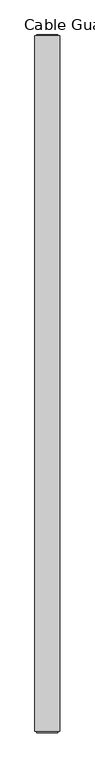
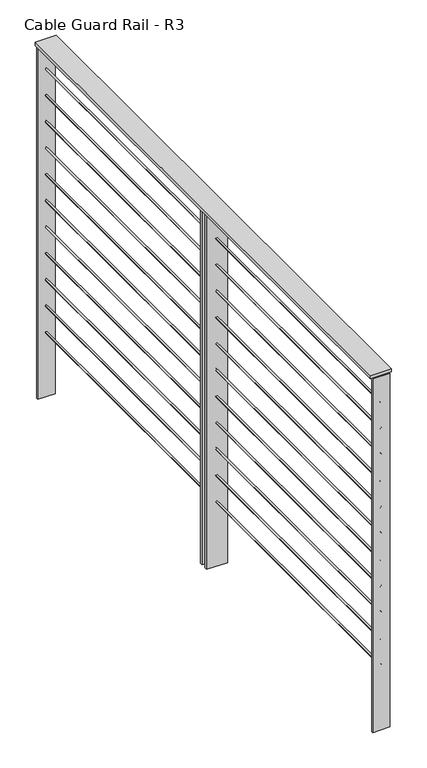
"""IFC4 building model written with IfcOpenShell, lengths in millimetres: railing geometry, Cable Guard Rail - R3."""

from ifc_helpers import new_model, si_unit, point, frame, frame_2d, origin, place, context, project, spatial, polyline, circle_curve, trimmed, segment, composite_curve, outline, extrude, source, transform, mapped, element, save


def cable_guard_rail_r3_a83c2a6b(model_context):
    return source(origin(), model_context, "Body", "SweptSolid", [
        extrude(outline(polyline([(29194.1728313, 224302.7909796), (29117.9728313, 224302.7909796), (29117.9728313, 226423.6909796), (29194.1728313, 226423.6909796), (29194.1728313, 224302.7909796)])), frame((0.0, 0.0, 295315.2166667), z_axis=(0.0, 0.0, 1.0), x_axis=(1.0, 0.0, 0.0)), (0.0, 0.0, 1.0), 12.7),
        extrude(outline(composite_curve([segment(trimmed(circle_curve(frame_2d((295213.6166667, 29156.0728313)), 3.175), [point((295213.6166667, 29159.2478313))], [point((295213.6166667, 29152.8978313))], False, "CARTESIAN"), True, "CONTINUOUS"), segment(trimmed(circle_curve(frame_2d((295213.6166667, 29156.0728313)), 3.175), [point((295213.6166667, 29152.8978313))], [point((295213.6166667, 29159.2478313))], False, "CARTESIAN"), True, "CONTINUOUS")], self_intersect=False)), frame((0.0, 224302.7909796, 0.0), z_axis=(0.0, 1.0, 0.0), x_axis=(0.0, 0.0, 1.0)), (0.0, 0.0, 1.0), 2120.9),
        extrude(outline(composite_curve([segment(trimmed(circle_curve(frame_2d((295112.0166667, 29156.0728313)), 3.175), [point((295112.0166667, 29159.2478313))], [point((295112.0166667, 29152.8978313))], False, "CARTESIAN"), True, "CONTINUOUS"), segment(trimmed(circle_curve(frame_2d((295112.0166667, 29156.0728313)), 3.175), [point((295112.0166667, 29152.8978313))], [point((295112.0166667, 29159.2478313))], False, "CARTESIAN"), True, "CONTINUOUS")], self_intersect=False)), frame((0.0, 224302.7909796, 0.0), z_axis=(0.0, 1.0, 0.0), x_axis=(0.0, 0.0, 1.0)), (0.0, 0.0, 1.0), 2120.9),
        extrude(outline(composite_curve([segment(trimmed(circle_curve(frame_2d((295010.4166667, 29156.0728313)), 3.175), [point((295010.4166667, 29159.2478313))], [point((295010.4166667, 29152.8978313))], False, "CARTESIAN"), True, "CONTINUOUS"), segment(trimmed(circle_curve(frame_2d((295010.4166667, 29156.0728313)), 3.175), [point((295010.4166667, 29152.8978313))], [point((295010.4166667, 29159.2478313))], False, "CARTESIAN"), True, "CONTINUOUS")], self_intersect=False)), frame((0.0, 224302.7909796, 0.0), z_axis=(0.0, 1.0, 0.0), x_axis=(0.0, 0.0, 1.0)), (0.0, 0.0, 1.0), 2120.9),
        extrude(outline(composite_curve([segment(trimmed(circle_curve(frame_2d((294908.8166667, 29156.0728313)), 3.175), [point((294908.8166667, 29159.2478313))], [point((294908.8166667, 29152.8978313))], False, "CARTESIAN"), True, "CONTINUOUS"), segment(trimmed(circle_curve(frame_2d((294908.8166667, 29156.0728313)), 3.175), [point((294908.8166667, 29152.8978313))], [point((294908.8166667, 29159.2478313))], False, "CARTESIAN"), True, "CONTINUOUS")], self_intersect=False)), frame((0.0, 224302.7909796, 0.0), z_axis=(0.0, 1.0, 0.0), x_axis=(0.0, 0.0, 1.0)), (0.0, 0.0, 1.0), 2120.9),
        extrude(outline(composite_curve([segment(trimmed(circle_curve(frame_2d((294807.2166667, 29156.0728313)), 3.175), [point((294807.2166667, 29159.2478313))], [point((294807.2166667, 29152.8978313))], False, "CARTESIAN"), True, "CONTINUOUS"), segment(trimmed(circle_curve(frame_2d((294807.2166667, 29156.0728313)), 3.175), [point((294807.2166667, 29152.8978313))], [point((294807.2166667, 29159.2478313))], False, "CARTESIAN"), True, "CONTINUOUS")], self_intersect=False)), frame((0.0, 224302.7909796, 0.0), z_axis=(0.0, 1.0, 0.0), x_axis=(0.0, 0.0, 1.0)), (0.0, 0.0, 1.0), 2120.9),
        extrude(outline(composite_curve([segment(trimmed(circle_curve(frame_2d((294705.6166667, 29156.0728313)), 3.175), [point((294705.6166667, 29159.2478313))], [point((294705.6166667, 29152.8978313))], False, "CARTESIAN"), True, "CONTINUOUS"), segment(trimmed(circle_curve(frame_2d((294705.6166667, 29156.0728313)), 3.175), [point((294705.6166667, 29152.8978313))], [point((294705.6166667, 29159.2478313))], False, "CARTESIAN"), True, "CONTINUOUS")], self_intersect=False)), frame((0.0, 224302.7909796, 0.0), z_axis=(0.0, 1.0, 0.0), x_axis=(0.0, 0.0, 1.0)), (0.0, 0.0, 1.0), 2120.9),
        extrude(outline(composite_curve([segment(trimmed(circle_curve(frame_2d((294604.0166667, 29156.0728313)), 3.175), [point((294604.0166667, 29159.2478313))], [point((294604.0166667, 29152.8978313))], False, "CARTESIAN"), True, "CONTINUOUS"), segment(trimmed(circle_curve(frame_2d((294604.0166667, 29156.0728313)), 3.175), [point((294604.0166667, 29152.8978313))], [point((294604.0166667, 29159.2478313))], False, "CARTESIAN"), True, "CONTINUOUS")], self_intersect=False)), frame((0.0, 224302.7909796, 0.0), z_axis=(0.0, 1.0, 0.0), x_axis=(0.0, 0.0, 1.0)), (0.0, 0.0, 1.0), 2120.9),
        extrude(outline(composite_curve([segment(trimmed(circle_curve(frame_2d((294502.4166667, 29156.0728313)), 3.175), [point((294502.4166667, 29159.2478313))], [point((294502.4166667, 29152.8978313))], False, "CARTESIAN"), True, "CONTINUOUS"), segment(trimmed(circle_curve(frame_2d((294502.4166667, 29156.0728313)), 3.175), [point((294502.4166667, 29152.8978313))], [point((294502.4166667, 29159.2478313))], False, "CARTESIAN"), True, "CONTINUOUS")], self_intersect=False)), frame((0.0, 224302.7909796, 0.0), z_axis=(0.0, 1.0, 0.0), x_axis=(0.0, 0.0, 1.0)), (0.0, 0.0, 1.0), 2120.9),
        extrude(outline(composite_curve([segment(trimmed(circle_curve(frame_2d((294400.8166667, 29156.0728313)), 3.175), [point((294400.8166667, 29159.2478313))], [point((294400.8166667, 29152.8978313))], False, "CARTESIAN"), True, "CONTINUOUS"), segment(trimmed(circle_curve(frame_2d((294400.8166667, 29156.0728313)), 3.175), [point((294400.8166667, 29152.8978313))], [point((294400.8166667, 29159.2478313))], False, "CARTESIAN"), True, "CONTINUOUS")], self_intersect=False)), frame((0.0, 224302.7909796, 0.0), z_axis=(0.0, 1.0, 0.0), x_axis=(0.0, 0.0, 1.0)), (0.0, 0.0, 1.0), 2120.9),
        extrude(outline(composite_curve([segment(trimmed(circle_curve(frame_2d((294299.2166667, 29156.0728313)), 3.175), [point((294299.2166667, 29159.2478313))], [point((294299.2166667, 29152.8978313))], False, "CARTESIAN"), True, "CONTINUOUS"), segment(trimmed(circle_curve(frame_2d((294299.2166667, 29156.0728313)), 3.175), [point((294299.2166667, 29152.8978313))], [point((294299.2166667, 29159.2478313))], False, "CARTESIAN"), True, "CONTINUOUS")], self_intersect=False)), frame((0.0, 224302.7909796, 0.0), z_axis=(0.0, 1.0, 0.0), x_axis=(0.0, 0.0, 1.0)), (0.0, 0.0, 1.0), 2120.9),
        extrude(outline(composite_curve([segment(trimmed(circle_curve(frame_2d((294197.6166667, 29156.0728313)), 3.175), [point((294197.6166667, 29159.2478313))], [point((294197.6166667, 29152.8978313))], False, "CARTESIAN"), True, "CONTINUOUS"), segment(trimmed(circle_curve(frame_2d((294197.6166667, 29156.0728313)), 3.175), [point((294197.6166667, 29152.8978313))], [point((294197.6166667, 29159.2478313))], False, "CARTESIAN"), True, "CONTINUOUS")], self_intersect=False)), frame((0.0, 224302.7909796, 0.0), z_axis=(0.0, 1.0, 0.0), x_axis=(0.0, 0.0, 1.0)), (0.0, 0.0, 1.0), 2120.9),
        extrude(outline(polyline([(29194.1728313, 225341.0159796), (29117.9728313, 225341.0159796), (29117.9728313, 225350.5409796), (29194.1728313, 225350.5409796), (29194.1728313, 225341.0159796)])), frame((0.0, 0.0, 293949.9666667), z_axis=(0.0, 0.0, 1.0), x_axis=(1.0, 0.0, 0.0)), (0.0, 0.0, 1.0), 1365.25),
        extrude(outline(polyline([(29194.1728313, 225369.5909796), (29117.9728313, 225369.5909796), (29117.9728313, 225379.0677442), (29194.1728313, 225379.0677442), (29194.1728313, 225369.5909796)])), frame((0.0, 0.0, 293949.9666667), z_axis=(0.0, 0.0, 1.0), x_axis=(1.0, 0.0, 0.0)), (0.0, 0.0, 1.0), 1365.25),
        extrude(outline(polyline([(29187.8228313, 226420.5159796), (29124.3228313, 226420.5159796), (29124.3228313, 226426.8659796), (29187.8228313, 226426.8659796), (29187.8228313, 226420.5159796)])), frame((0.0, 0.0, 293949.9666667), z_axis=(0.0, 0.0, 1.0), x_axis=(1.0, 0.0, 0.0)), (0.0, 0.0, 1.0), 1365.25),
        extrude(outline(polyline([(29187.8228313, 224299.6159796), (29124.3228313, 224299.6159796), (29124.3228313, 224305.9659796), (29187.8228313, 224305.9659796), (29187.8228313, 224299.6159796)])), frame((0.0, 0.0, 293949.9666667), z_axis=(0.0, 0.0, 1.0), x_axis=(1.0, 0.0, 0.0)), (0.0, 0.0, 1.0), 1365.25),
    ])


if __name__ == "__main__":
    model = new_model("IFC4")
    model_context = context("Model", 3, world=origin())
    ifc_project = project(units=[si_unit("LENGTHUNIT", "METRE", prefix="MILLI")], contexts=[model_context])
    site = spatial("IfcSite", under=ifc_project)
    building = spatial("IfcBuilding", under=site)
    placement = place(None, origin())
    cable_guard_rail_r3_shape = cable_guard_rail_r3_a83c2a6b(model_context)
    element("IfcRailing", 1, ObjectType="Cable Guard Rail - R3", at=placement, inside=building, context=model_context, shape_type="MappedRepresentation", body=[
        mapped(cable_guard_rail_r3_shape, transform((0.0, 0.0, 0.0), x_axis=(1.0, 0.0, 0.0), y_axis=(0.0, 1.0, 0.0), z_axis=(0.0, 0.0, 1.0))),
    ])
    save(model, "model.ifc")
